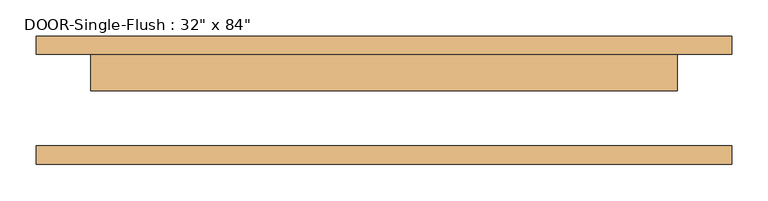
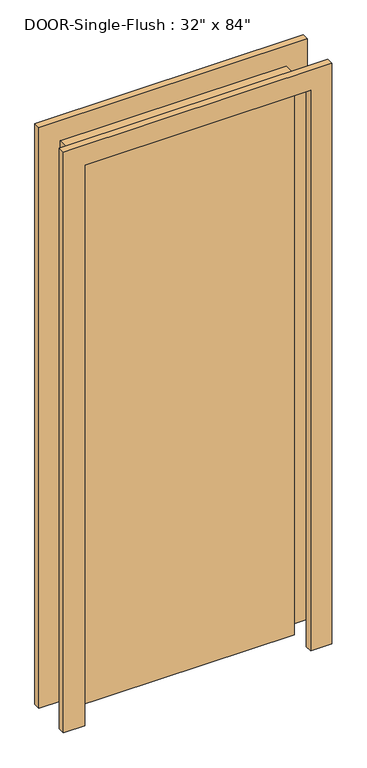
"""IFC4 building model written with IfcOpenShell, lengths in millimetres: door geometry."""

from ifc_helpers import new_model, si_unit, frame, origin, origin_with_axes, place, context, project, spatial, polyline, outline, extrude, source, transform, mapped, element, save


def door_a75b9756(model_context):
    return source(origin(), model_context, "Body", "SweptSolid", [
        extrude(outline(polyline([(2209.8, -482.6), (0.0, -482.6), (0.0, -406.4), (2133.6, -406.4), (2133.6, 406.4), (0.0, 406.4), (0.0, 482.6), (2209.8, 482.6), (2209.8, -482.6)])), frame((0.0, 63.5, 0.0), z_axis=(0.0, 1.0, 0.0), x_axis=(0.0, 0.0, 1.0)), (0.0, 0.0, 1.0), 25.4),
        extrude(outline(polyline([(2209.8, 482.6), (2209.8, -482.6), (0.0, -482.6), (0.0, -406.4), (2133.6, -406.4), (2133.6, 406.4), (0.0, 406.4), (0.0, 482.6), (2209.8, 482.6)])), frame((0.0, -88.9, 0.0), z_axis=(0.0, 1.0, 0.0), x_axis=(0.0, 0.0, 1.0)), (0.0, 0.0, 1.0), 25.4),
        extrude(outline(polyline([(406.4, 12.7), (-406.4, 12.7), (-406.4, 63.5), (406.4, 63.5), (406.4, 12.7)])), origin_with_axes(), (0.0, 0.0, 1.0), 2133.6),
    ])


if __name__ == "__main__":
    model = new_model("IFC4")
    model_context = context("Model", 3, world=origin())
    ifc_project = project(units=[si_unit("LENGTHUNIT", "METRE", prefix="MILLI")], contexts=[model_context])
    site = spatial("IfcSite", under=ifc_project)
    building = spatial("IfcBuilding", under=site)
    placement = place(None, origin())
    door_shape = door_a75b9756(model_context)
    element("IfcDoor", 1, ObjectType="DOOR-Single-Flush : 32\" x 84\"", at=placement, inside=building, context=model_context, shape_type="MappedRepresentation", body=[
        mapped(door_shape, transform((0.0, 0.0, 0.0), x_axis=(1.0, 0.0, 0.0), y_axis=(0.0, 1.0, 0.0), z_axis=(0.0, 0.0, 1.0))),
    ])
    save(model, "model.ifc")
